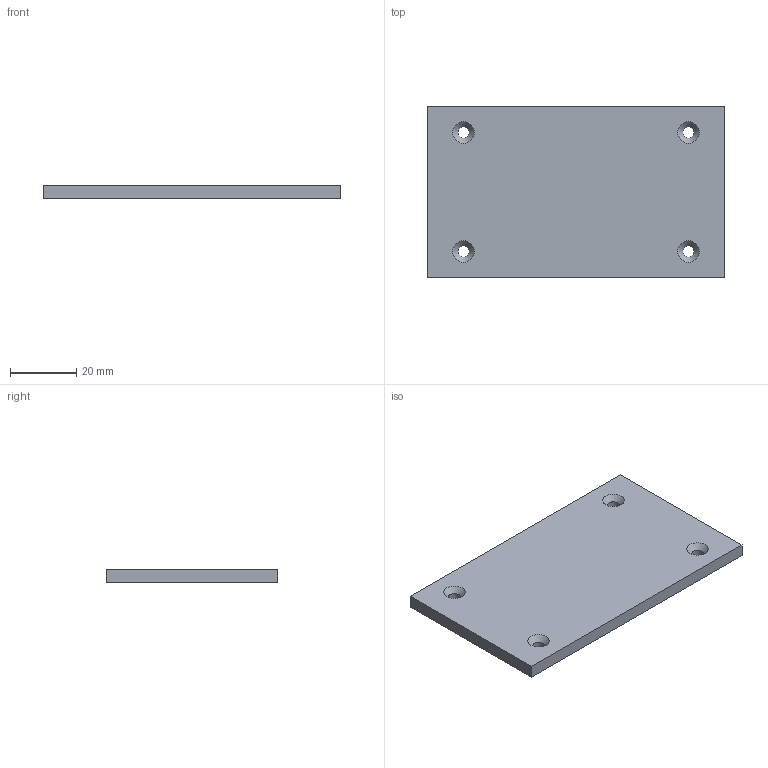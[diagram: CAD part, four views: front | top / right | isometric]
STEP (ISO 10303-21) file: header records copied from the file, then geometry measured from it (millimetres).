
FILE_DESCRIPTION(('FreeCAD Model'),'2;1');
FILE_NAME('Open CASCADE Shape Model','2026-11-07T00:59:45',('FreeCAD'),( 'FreeCAD'),'Open CASCADE STEP processor 7.8','FreeCAD','Unknown');
FILE_SCHEMA(('AUTOMOTIVE_DESIGN { 1 0 10303 214 1 1 1 1 }'));
Length unit declared in the file: millimetre
Products named in the file (1): Open CASCADE STEP translator 7.8 8
Bounding box: 90 x 52 x 4 mm (x, y, z)
Volume: 18501.3 mm3; surface area: 10568.3 mm2
Topology: 1 solids, 1 shells, 14 faces, 32 edges, 20 vertices
Faces by surface type: plane 6, cone 4, cylinder 4
Full cylindrical faces by diameter (mm): 3.4 x4
Entity records: 422 total; most frequent: DIRECTION 74, CARTESIAN_POINT 67, ORIENTED_EDGE 64, EDGE_CURVE 32, AXIS2_PLACEMENT_3D 27, FACE_BOUND 22, EDGE_LOOP 22, VERTEX_POINT 20
